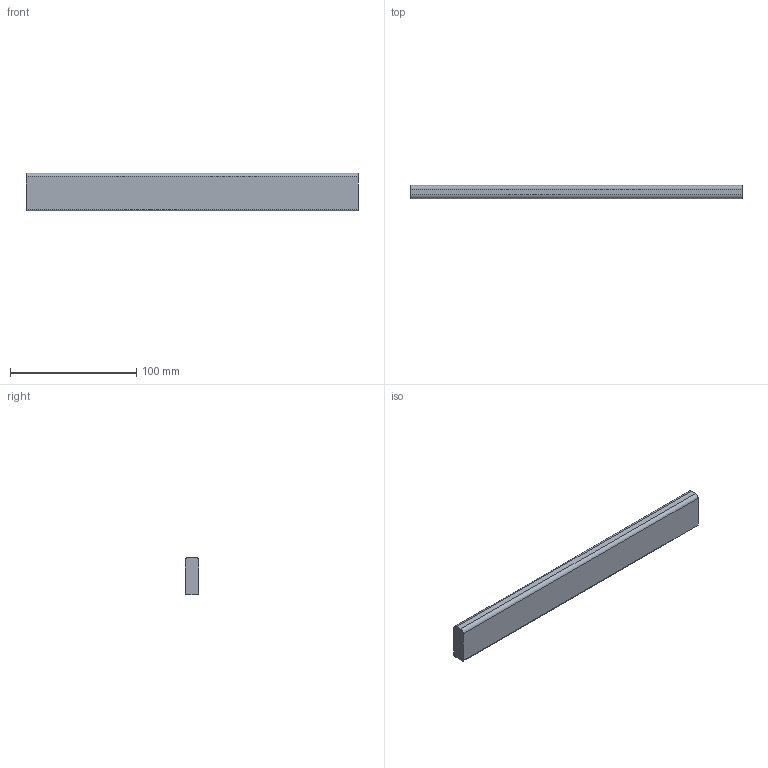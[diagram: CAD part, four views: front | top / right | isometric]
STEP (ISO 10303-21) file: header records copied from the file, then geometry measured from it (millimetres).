
FILE_DESCRIPTION (( 'STEP AP214' ), '1' );
FILE_NAME ('_Querreling_KAB-350_KS-16.step', '2010-08-26T14:58:59', ( 'grass' ), ( '' ), 'SwSTEP 2.0', 'SolidWorks 2009', '' );
FILE_SCHEMA (( 'AUTOMOTIVE_DESIGN' ));
Length unit declared in the file: millimetre
Products named in the file (1): _Querreling_KAB-350_KS-16
Bounding box: 262.5 x 10.5 x 30 mm (x, y, z)
Volume: 81560.8 mm3; surface area: 20982.6 mm2
Topology: 1 solids, 1 shells, 10 faces, 24 edges, 16 vertices
Faces by surface type: plane 6, cylinder 4
Entity records: 330 total; most frequent: DIRECTION 54, CARTESIAN_POINT 51, ORIENTED_EDGE 48, EDGE_CURVE 24, AXIS2_PLACEMENT_3D 19, VECTOR 16, LINE 16, VERTEX_POINT 16
